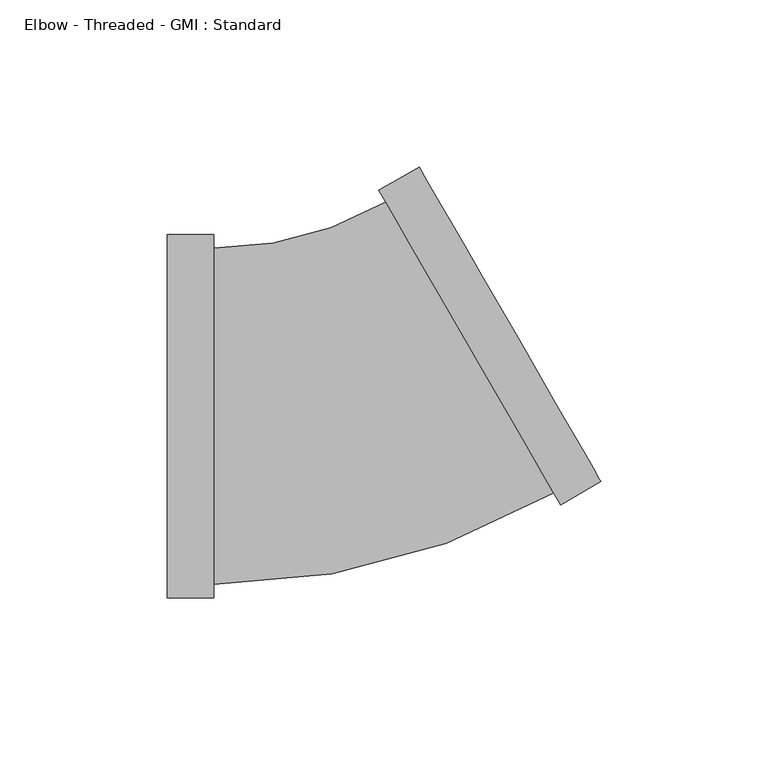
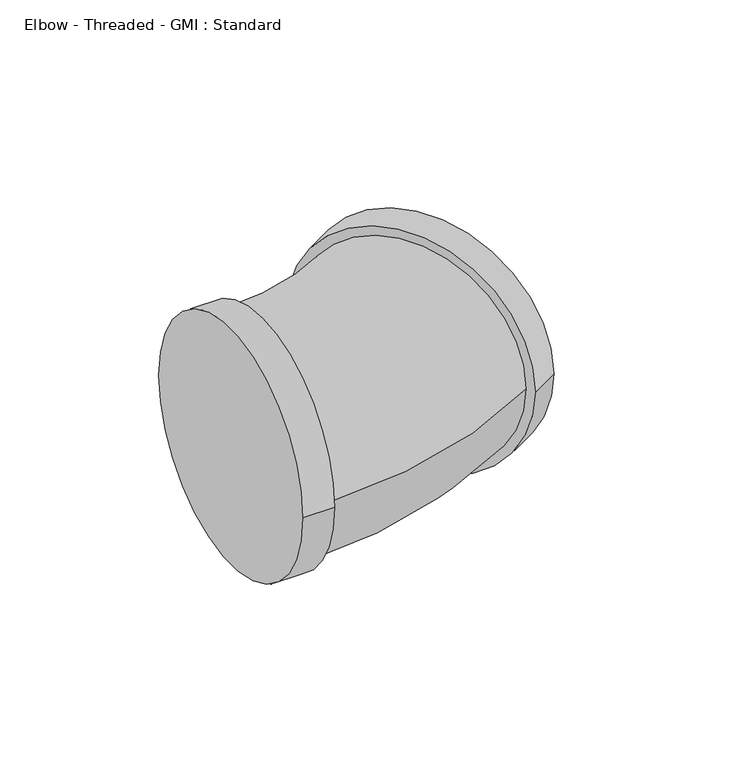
"""IFC4 building model written with IfcOpenShell, lengths in millimetres: pipe fitting geometry, Elbow - Threaded - GMI : Standard."""

from ifc_helpers import new_model, si_unit, point, frame, origin, place, context, project, spatial, circle_curve, ellipse_curve, trimmed, source, transform, mapped, element, save
from ifc_brep_helpers import plane_surface, cylinder_surface, revolved_surface, advanced_brep


def elbow_threaded_gmi_standard_f4668db6(model_context):
    return source(origin(), model_context, "Body", "AdvancedBrep", [
        advanced_brep(
        [(-55.0, -54.4, 0.0), (-55.0, 54.4, 0.0), (-41.1, -54.4, 0.0), (-41.1, 54.4, 0.0), (-41.1, -50.32, 0.0), (-41.1, 50.32, 0.0), (62.7936441, -26.561782, 0.0), (8.3936441, 67.661782, 0.0), (10.4336441, 64.1283983, 0.0), (60.7536441, -23.0283983, 0.0), (74.8313972, -19.611782, 0.0), (20.4313972, 74.611782, 0.0)],
        [
            (0, 1, circle_curve(frame((-55.0, 0.0, 0.0), z_axis=(-1.0, 0.0, 0.0), x_axis=(0.0, 1.0, 0.0)), 54.4)),
            (1, 0, circle_curve(frame((-55.0, 0.0, 0.0), z_axis=(-1.0, 0.0, 0.0), x_axis=(0.0, 1.0, 0.0)), 54.4)),
            (2, 3, circle_curve(frame((-41.1, 0.0, 0.0), z_axis=(1.0, 0.0, 0.0), x_axis=(0.0, 1.0, 0.0)), 54.4)),
            (3, 2, circle_curve(frame((-41.1, 0.0, 0.0), z_axis=(1.0, 0.0, 0.0), x_axis=(0.0, 1.0, 0.0)), 54.4)),
            (4, 5, circle_curve(frame((-41.1, 0.0, 0.0), z_axis=(-1.0, 0.0, 0.0), x_axis=(0.0, 1.0, 0.0)), 50.32)),
            (5, 4, circle_curve(frame((-41.1, 0.0, 0.0), z_axis=(-1.0, 0.0, 0.0), x_axis=(0.0, 1.0, 0.0)), 50.32)),
            (0, 2),
            (3, 1),
            (6, 7, circle_curve(frame((35.5936441, 20.55, 0.0), z_axis=(-0.8660254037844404, -0.49999999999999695, 0.0), x_axis=(-0.49999999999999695, 0.8660254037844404, 0.0)), 54.4)),
            (7, 6, circle_curve(frame((35.5936441, 20.55, 0.0), z_axis=(-0.8660254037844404, -0.49999999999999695, 0.0), x_axis=(-0.49999999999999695, 0.8660254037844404, 0.0)), 54.4)),
            (8, 9, circle_curve(frame((35.5936441, 20.55, 0.0), z_axis=(0.8660254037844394, 0.49999999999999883, 0.0), x_axis=(-0.49999999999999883, 0.8660254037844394, 0.0)), 50.32)),
            (9, 8, circle_curve(frame((35.5936441, 20.55, 0.0), z_axis=(0.8660254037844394, 0.49999999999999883, 0.0), x_axis=(-0.49999999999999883, 0.8660254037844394, 0.0)), 50.32)),
            (10, 11, circle_curve(frame((47.6313972, 27.5, 0.0), z_axis=(0.8660254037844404, 0.49999999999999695, 0.0), x_axis=(-0.49999999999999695, 0.8660254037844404, 0.0)), 54.4)),
            (11, 10, circle_curve(frame((47.6313972, 27.5, 0.0), z_axis=(0.8660254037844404, 0.49999999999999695, 0.0), x_axis=(-0.49999999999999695, 0.8660254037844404, 0.0)), 54.4)),
            (6, 10),
            (11, 7),
            (8, 5, circle_curve(frame((-41.1, 153.3872882, 0.0), z_axis=(0.0, 0.0, -1.0), x_axis=(0.0, -1.0, 0.0)), 103.0672882)),
            (4, 9, circle_curve(frame((-41.1, 153.3872882, 0.0), z_axis=(0.0, 0.0, 1.0), x_axis=(0.0, -1.0, 0.0)), 203.7072882)),
        ],
        [
            plane_surface(frame((-55.0, 0.0, 0.0), z_axis=(-1.0, 0.0, 0.0), x_axis=(0.0, 0.0, 1.0))),
            plane_surface(frame((-41.1, 0.0, 0.0), z_axis=(1.0, 0.0, 0.0), x_axis=(0.0, 0.0, 1.0))),
            cylinder_surface(frame((-55.0, 0.0, 0.0), z_axis=(-1.0, 0.0, 0.0), x_axis=(0.0, 1.0, 0.0)), 54.4),
            plane_surface(frame((35.5936441, 20.55, 0.0), z_axis=(-0.8660254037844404, -0.49999999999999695, 0.0), x_axis=(0.0, 0.0, 1.0))),
            plane_surface(frame((47.6313972, 27.5, 0.0), z_axis=(0.8660254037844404, 0.49999999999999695, 0.0), x_axis=(0.0, 0.0, 1.0))),
            cylinder_surface(frame((35.5936441, 20.55, 0.0), z_axis=(-0.8660254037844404, -0.49999999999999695, 0.0), x_axis=(-0.49999999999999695, 0.8660254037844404, 0.0)), 54.4),
            revolved_surface(trimmed(ellipse_curve(frame((-41.1, 0.0, 0.0), z_axis=(-1.0, 0.0, 0.0), x_axis=(0.0, 1.0, 0.0)), 50.32, 50.32), [point((-41.1, -50.32, 0.0))], [point((-41.1, 50.32, 0.0))], True, "CARTESIAN"), (-41.1, 153.3872882, 0.0), (0.0, 0.0, 1.0)),
            revolved_surface(trimmed(ellipse_curve(frame((-41.1, 0.0, 0.0), z_axis=(-1.0, 0.0, 0.0), x_axis=(0.0, 1.0, 0.0)), 50.32, 50.32), [point((-41.1, 50.32, 0.0))], [point((-41.1, -50.32, 0.0))], True, "CARTESIAN"), (-41.1, 153.3872882, 0.0), (0.0, 0.0, 1.0)),
        ],
        [
            (0, [[1, 2]]),
            (1, [[3, 4], [5, 6]]),
            (2, [[-1, 7, -4, 8]]),
            (2, [[-2, -8, -3, -7]]),
            (3, [[9, 10], [11, 12]]),
            (4, [[13, 14]]),
            (5, [[-9, 15, -14, 16]]),
            (5, [[-10, -16, -13, -15]]),
            (6, [[17, -5, 18, -11]]),
            (7, [[-17, -12, -18, -6]]),
        ],
    ),
    ])


if __name__ == "__main__":
    model = new_model("IFC4")
    model_context = context("Model", 3, world=origin())
    ifc_project = project(units=[si_unit("LENGTHUNIT", "METRE", prefix="MILLI")], contexts=[model_context])
    site = spatial("IfcSite", under=ifc_project)
    building = spatial("IfcBuilding", under=site)
    placement = place(None, origin())
    elbow_threaded_gmi_standard_shape = elbow_threaded_gmi_standard_f4668db6(model_context)
    element("IfcPipeFitting", 1, ObjectType="Elbow - Threaded - GMI : Standard", at=placement, inside=building, context=model_context, shape_type="MappedRepresentation", body=[
        mapped(elbow_threaded_gmi_standard_shape, transform((0.0, 0.0, 0.0), x_axis=(1.0, 0.0, 0.0), y_axis=(0.0, 1.0, 0.0), z_axis=(0.0, 0.0, 1.0))),
    ])
    save(model, "model.ifc")
